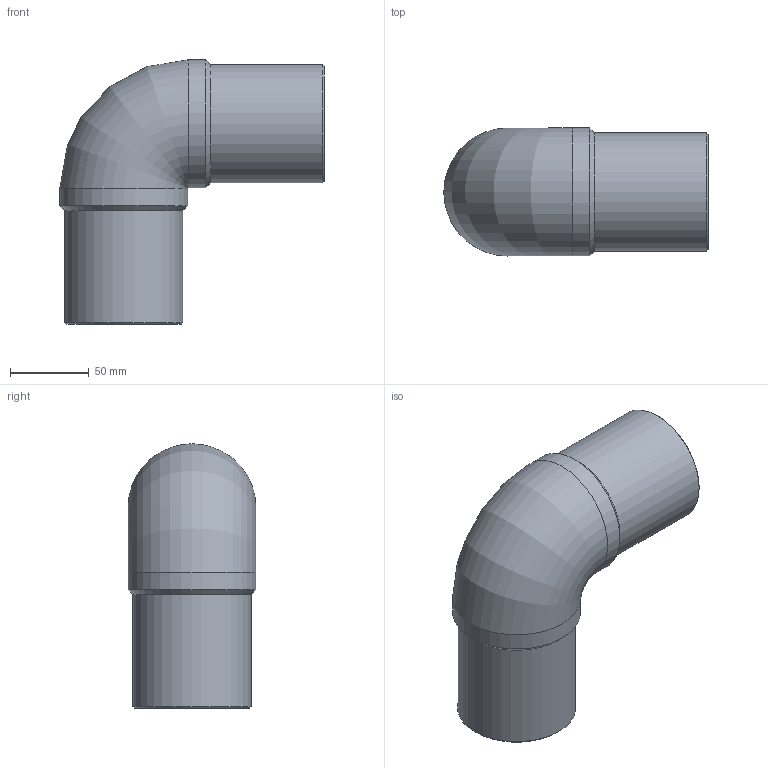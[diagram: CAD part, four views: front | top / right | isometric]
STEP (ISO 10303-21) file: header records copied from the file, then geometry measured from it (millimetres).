
FILE_DESCRIPTION(/* description */ ('Unknown'),/* implementation_level */ '2;1');
FILE_NAME(/* name */ 'G9P075B',/* time_stamp */ '2021-11-15T12:04:23+01:00',/* author */ ('Unknown'),/* organization */ ('Unknown'),/* preprocessor_version */ 'ST-DEVELOPER v16.7',/* originating_system */ 'Solid Edge',/* authorisation */ 'Unknown');
FILE_SCHEMA (('AUTOMOTIVE_DESIGN {1 0 10303 214 3 1 1}'));
Length unit declared in the file: millimetre
Products named in the file (1): G9P075B
Bounding box: 167.5 x 81 x 167.5 mm (x, y, z)
Volume: 304986.4 mm3; surface area: 108892.5 mm2
Topology: 1 solids, 1 shells, 14 faces, 34 edges, 22 vertices
Faces by surface type: cylinder 6, cone 4, plane 2, torus 2
Full cylindrical faces by diameter (mm): 66 x2, 75 x2, 81 x2
Entity records: 370 total; most frequent: CARTESIAN_POINT 70, DIRECTION 60, ORIENTED_EDGE 38, AXIS2_PLACEMENT_3D 30, EDGE_LOOP 27, FACE_BOUND 27, EDGE_CURVE 19, VERTEX_POINT 18
